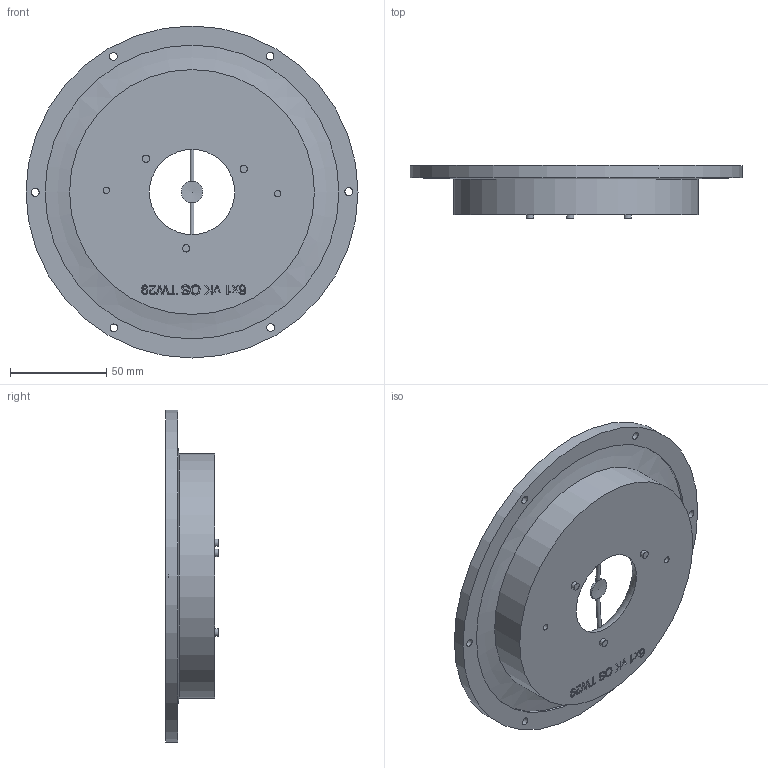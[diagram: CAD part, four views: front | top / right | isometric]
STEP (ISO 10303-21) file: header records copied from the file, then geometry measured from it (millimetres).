
FILE_DESCRIPTION(/* description */ (''),/* implementation_level */ '2;1');
FILE_NAME(/* name */ '6x1 rK ps.step',/* time_stamp */ '2023-05-21T16:50:45-06:00',/* author */ (''),/* organization */ (''),/* preprocessor_version */ 'ST-DEVELOPER v19.2',/* originating_system */ 'Autodesk Translation Framework v12.4.0.73',/* authorisation */ '');
FILE_SCHEMA (('AUTOMOTIVE_DESIGN { 1 0 10303 214 3 1 1 }'));
Length unit declared in the file: inch
Products named in the file (3): 6x1 rK TW29; modified 6 v2; Component2
Assembly tree (2 placements, depth 3):
  6x1 rK TW29
    modified 6 v2
      Component2
Bounding box: 172.21 x 27.43 x 172.21 mm (x, y, z)
Volume: 251308.8 mm3; surface area: 58072.7 mm2
Topology: 2 solids, 2 shells, 267 faces, 714 edges, 476 vertices
Faces by surface type: bspline 143, plane 94, cylinder 24, torus 3, cone 3
Full cylindrical faces by diameter (mm): 2.032 x2, 3.302 x2, 3.81 x3, 4.064 x6, 8.382 x6, 11.176 x1, 127 x1, 152.4 x1, 172.212 x1
Entity records: 9890 total; most frequent: CARTESIAN_POINT 4076, ORIENTED_EDGE 1426, DIRECTION 727, EDGE_CURVE 713, VERTEX_POINT 476, LINE 363, VECTOR 363, EDGE_LOOP 307
